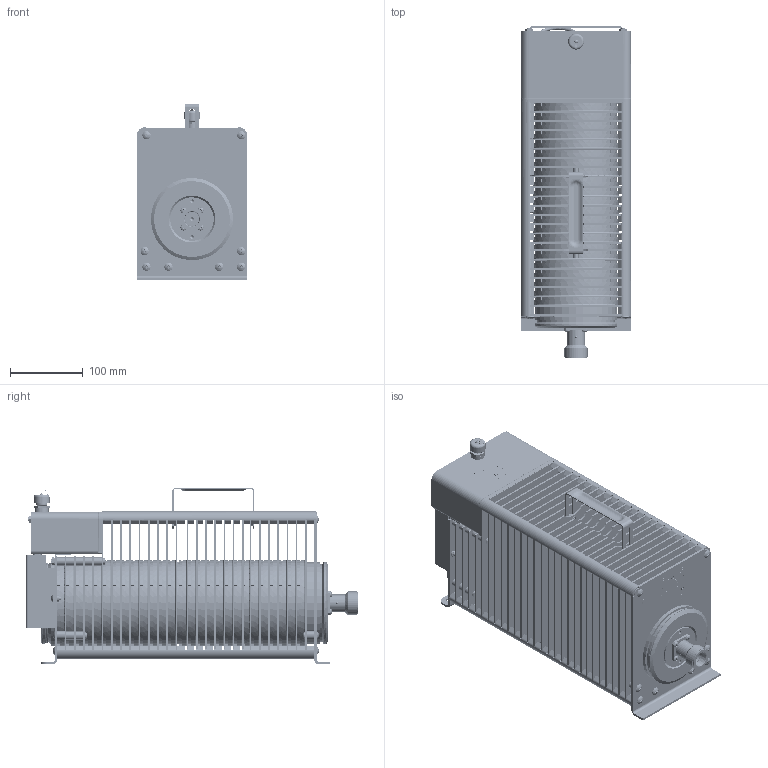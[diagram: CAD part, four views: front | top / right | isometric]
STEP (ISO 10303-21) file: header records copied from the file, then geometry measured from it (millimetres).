
FILE_DESCRIPTION(/* description */ ('AdapterTestApp'),/* implementation_level */ '2;1');
FILE_NAME(/* name */ '8251-United',/* time_stamp */ '2015-06-17T11:17:14-04:00',/* author */ ('AdapterTestApp'),/* organization */ ('Siemens PLM Software'),/* preprocessor_version */ 'ST-DEVELOPER v15.6',/* originating_system */ 'DEX',/* authorisation */ $);
FILE_SCHEMA (('AUTOMOTIVE_DESIGN {1 0 10303 214 3 1 1}'));
Products named in the file (1): 8251-United
Bounding box: 152.32 x 456.04 x 242.52 mm (x, y, z)
Volume: 2439386.6 mm3; surface area: 1911357.1 mm2
Topology: 16 solids, 23 shells, 11854 faces, 35202 edges, 23281 vertices
Faces by surface type: plane 8773, cylinder 1846, cone 714, extrusion 166, torus 149, bspline 149, sphere 55, revolution 2
Full cylindrical faces by diameter (mm): 0.489 x1, 0.762 x2, 0.823 x1, 1.037 x1, 1.486 x8, 1.524 x7, 2.565 x8, 2.845 x26, 2.997 x1, 3.175 x1, 3.429 x4, 3.821 x1, 4.166 x12, 4.216 x2, 4.572 x9, 4.763 x5, 4.851 x30, 4.902 x1, 4.953 x1, 5.055 x2, 5.105 x16, 5.16 x1, 5.385 x3, 5.563 x8, 5.791 x6, 6.223 x4, 6.274 x1, 6.325 x143, 6.604 x2, 6.756 x1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
Entity records: 639673 total; most frequent: CARTESIAN_POINT 248792, ORIENTED_EDGE 67562, DIRECTION 58379, EDGE_CURVE 33781, VECTOR 24145, LINE 23979, VERTEX_POINT 22691, AXIS2_PLACEMENT_3D 17116
